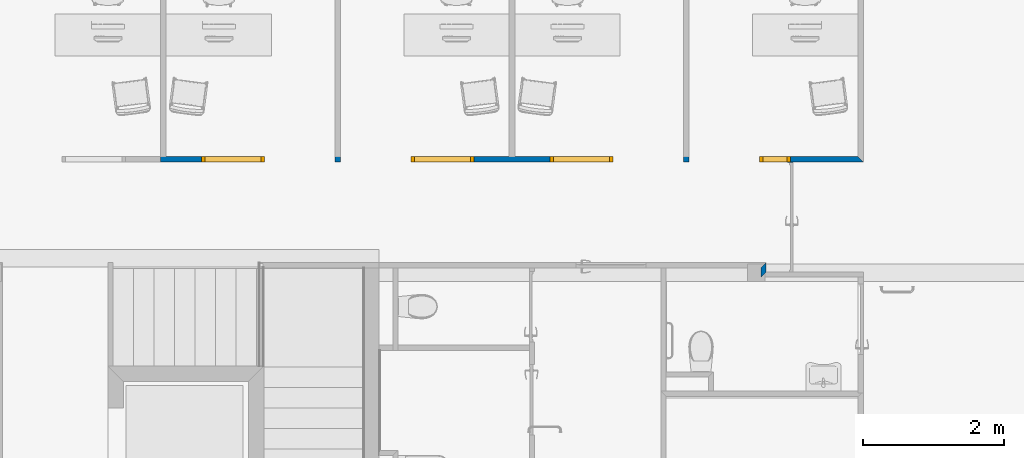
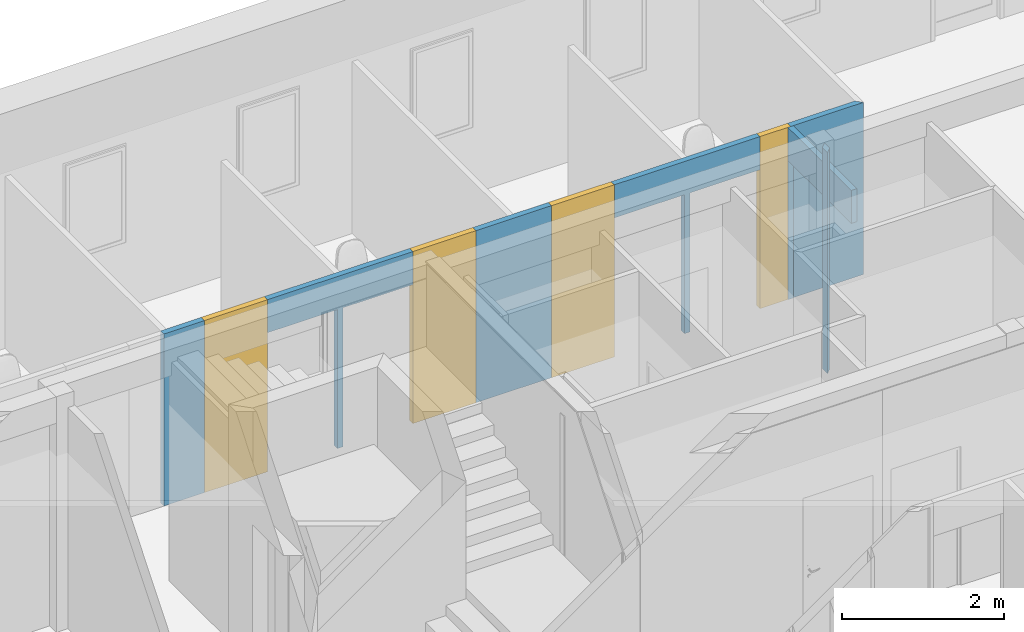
# One storey, part 25 of 91: 4 windows, 3 walls, 9 openings.
"""IFC2X3 building model written with IfcOpenShell, lengths in metres."""

from ifc_helpers import new_model, entity, si_unit, converted_unit, derived_unit, money_unit, direction, frame, origin_with_axes, origin_2d_with_axis, place, context, subcontext, project, spatial, polyline, rectangle, outline, extrude, open_shell, faceted_brep, surface_model, source, transform, mapped, material, layer, layer_set, layer_usage, type_object, element, fill, save


model = new_model("IFC2X3")

# Units and contexts
model_context = context("Model", 3, precision=1e-05, world=origin_with_axes(), true_north=direction((0.0, 1.0)))
body_context = subcontext(model_context, "Body", "Model", "MODEL_VIEW")
ifc_project = project(units=[si_unit("LENGTHUNIT", "METRE"), si_unit("AREAUNIT", "SQUARE_METRE"), si_unit("VOLUMEUNIT", "CUBIC_METRE"), converted_unit("PLANEANGLEUNIT", "DEGREE", entity("IfcPlaneAngleMeasure", 0.0174532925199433), si_unit("PLANEANGLEUNIT", "RADIAN"), dimensions=[0, 0, 0, 0, 0, 0, 0]), money_unit("EUR"), converted_unit("TIMEUNIT", "Year", entity("IfcTimeMeasure", 31557600.0), si_unit("TIMEUNIT", "SECOND"), dimensions=[0, 0, 1, 0, 0, 0, 0]), si_unit("MASSUNIT", "GRAM", prefix="KILO"), si_unit("THERMODYNAMICTEMPERATUREUNIT", "DEGREE_CELSIUS"), si_unit("LUMINOUSINTENSITYUNIT", "LUMEN"), si_unit("ENERGYUNIT", "JOULE", prefix="MEGA"), derived_unit("THERMALCONDUCTANCEUNIT", [(si_unit("POWERUNIT", "WATT"), 1), (si_unit("LENGTHUNIT", "METRE"), -1), (si_unit("THERMODYNAMICTEMPERATUREUNIT", "KELVIN"), -1)]), derived_unit("SPECIFICHEATCAPACITYUNIT", [(si_unit("ENERGYUNIT", "JOULE"), 1), (si_unit("MASSUNIT", "GRAM", prefix="KILO"), -1), (si_unit("THERMODYNAMICTEMPERATUREUNIT", "KELVIN"), -1)]), derived_unit("MASSDENSITYUNIT", [(si_unit("MASSUNIT", "GRAM", prefix="KILO"), 1), (si_unit("VOLUMEUNIT", "CUBIC_METRE"), -1)])], contexts=[model_context])

# Site, building, storey
site_placement = place(None, origin_with_axes())
site = spatial("IfcSite", under=ifc_project, at=site_placement, Name="Site", CompositionType="ELEMENT")
building_placement = place(site_placement, origin_with_axes())
building = spatial("IfcBuilding", under=site, at=building_placement, Name="Bâtiment", CompositionType="ELEMENT")
storey_placement = place(building_placement, origin_with_axes())
storey = spatial("IfcBuildingStorey", under=building, at=storey_placement, Name="RDC", CompositionType="ELEMENT", Elevation=0.0)

# Wall
ifc_material_1 = material(Name="Finition int - Plaque de plâtre")
ifc_layer_1 = layer(ifc_material_1, 0.013, ventilated="UNKNOWN")
ifc_material_2 = material(Name="Isolation - Laine de verre")
ifc_layer_2 = layer(ifc_material_2, 0.048, ventilated="UNKNOWN")
ifc_layer_3 = layer(ifc_material_1, 0.013, ventilated="UNKNOWN")
ifc_layer_set_1 = layer_set([ifc_layer_1, ifc_layer_2, ifc_layer_3], Name="*Cloison 72")
ifc_layer_usage_1 = layer_usage(ifc_layer_set_1, "AXIS2", "NEGATIVE", 0.0)
wall_type_1 = type_object("IfcWallType", Name="*Cloison 72 74", PredefinedType="NOTDEFINED")
wall_1_placement = place(storey_placement, frame((43.55999727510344, -16.61756236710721, 0.0), z_axis=(0.0, 0.0, 1.0), x_axis=(0.0, -1.0, 0.0)))
element("IfcWallStandardCase", 1, at=wall_1_placement, inside=storey, type_object=wall_type_1, material=ifc_layer_usage_1, Name="Cloisons ép. 72mm", context=body_context, shape_type="SweptSolid", body=[
    extrude(outline(polyline([(0.07400000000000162, -0.07399999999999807), (0.2040000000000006, -0.07399999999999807), (0.129999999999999, 0.0), (0.0, 0.0), (0.07400000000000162, -0.07399999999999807)])), origin_with_axes(), (0.0, 0.0, 1.0), 3.34),
])

# Wall, openings, windows
ifc_material_3 = material(Name="*PLAQUE DE PLATRE - CLOISON")
ifc_layer_4 = layer(ifc_material_3, 0.08, ventilated="UNKNOWN")
ifc_layer_set_2 = layer_set([ifc_layer_4], Name="*PLAQUE DE PLATRE - CLOISON 0.08")
ifc_layer_usage_2 = layer_usage(ifc_layer_set_2, "AXIS2", "POSITIVE", 0.0)
wall_type_2 = type_object("IfcWallType", Name="*PLAQUE DE PLATRE - CLOISON 80", PredefinedType="NOTDEFINED")
wall_2_placement = place(storey_placement, frame((34.94300003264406, -15.18656213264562, 0.0), z_axis=(0.0, 0.0, 1.0), x_axis=(1.0, 0.0, 0.0)))
wall_2 = element("IfcWallStandardCase", 2, at=wall_2_placement, inside=storey, type_object=wall_type_2, material=ifc_layer_usage_2, Name="Cloison modulaire", context=body_context, shape_type="SweptSolid", body=[
    extrude(outline(polyline([(0.0, 0.0), (9.99999995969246, 0.0), (9.919999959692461, 0.08000000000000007), (0.0, 0.08000000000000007), (0.0, 0.0)])), origin_with_axes(), (0.0, 0.0, 1.0), 2.6),
])
opening_1_placement = place(wall_2_placement, frame((1.029999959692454, 0.0, 0.0), z_axis=(0.0, 0.0, 1.0), x_axis=(1.0, 0.0, 0.0)))
opening_1 = element("IfcOpeningElement", 3, at=opening_1_placement, cuts=wall_2, Name="CH.1+vitrophanie", context=body_context, shape_type="SweptSolid", body=[
    extrude(rectangle(XDim=0.9000000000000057, YDim=2.6, at=origin_2d_with_axis()), frame((0.0, 0.08000000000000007, 1.3), z_axis=(0.0, -1.0, 0.0), x_axis=(-1.0, 0.0, 0.0)), (0.0, 0.0, 1.0), 0.24),
])
opening_2_placement = place(wall_2_placement, frame((4.009999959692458, 0.0, 0.0), z_axis=(0.0, 0.0, 1.0), x_axis=(1.0, 0.0, 0.0)))
opening_2 = element("IfcOpeningElement", 4, at=opening_2_placement, cuts=wall_2, Name="CH.1+vitrophanie", context=body_context, shape_type="SweptSolid", body=[
    extrude(rectangle(XDim=0.9000000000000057, YDim=2.6, at=origin_2d_with_axis()), frame((0.0, 0.08000000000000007, 1.3), z_axis=(0.0, -1.0, 0.0), x_axis=(-1.0, 0.0, 0.0)), (0.0, 0.0, 1.0), 0.24),
])
opening_3_placement = place(wall_2_placement, frame((5.989999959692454, 0.0, 0.0), z_axis=(0.0, 0.0, 1.0), x_axis=(1.0, 0.0, 0.0)))
opening_3 = element("IfcOpeningElement", 5, at=opening_3_placement, cuts=wall_2, Name="CH.1+vitrophanie", context=body_context, shape_type="SweptSolid", body=[
    extrude(rectangle(XDim=0.9000000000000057, YDim=2.6, at=origin_2d_with_axis()), frame((0.0, 0.08000000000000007, 1.3), z_axis=(0.0, -1.0, 0.0), x_axis=(-1.0, 0.0, 0.0)), (0.0, 0.0, 1.0), 0.24),
])
opening_4_placement = place(wall_2_placement, frame((8.739999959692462, 0.0, 0.0), z_axis=(0.0, 0.0, 1.0), x_axis=(1.0, 0.0, 0.0)))
opening_4 = element("IfcOpeningElement", 6, at=opening_4_placement, cuts=wall_2, Name="CH.2+vitrophanie", context=body_context, shape_type="SweptSolid", body=[
    extrude(rectangle(XDim=0.4400000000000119, YDim=2.6, at=origin_2d_with_axis()), frame((0.0, 0.08000000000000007, 1.3), z_axis=(0.0, -1.0, 0.0), x_axis=(-1.0, 0.0, 0.0)), (0.0, 0.0, 1.0), 0.24),
])
opening_5_placement = place(wall_2_placement, frame((3.059999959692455, 0.0, 0.0), z_axis=(0.0, 0.0, 1.0), x_axis=(1.0, 0.0, 0.0)))
element("IfcOpeningElement", 7, at=opening_5_placement, cuts=wall_2, Name="libre", context=body_context, shape_type="SweptSolid", body=[
    extrude(rectangle(XDim=1.0, YDim=2.1, at=origin_2d_with_axis()), frame((0.0, 0.0, 1.05), z_axis=(0.0, 1.0, 0.0), x_axis=(1.0, 0.0, 0.0)), (0.0, 0.0, -1.0), 0.08),
    extrude(rectangle(XDim=1.0, YDim=2.1, at=origin_2d_with_axis()), frame((0.0, 0.0, 1.05), z_axis=(0.0, -1.0, 0.0), x_axis=(1.0, 0.0, 0.0)), (0.0, 0.0, -1.0), 0.08),
])
opening_6_placement = place(wall_2_placement, frame((1.979999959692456, 0.0, 0.0), z_axis=(0.0, 0.0, 1.0), x_axis=(1.0, 0.0, 0.0)))
element("IfcOpeningElement", 8, at=opening_6_placement, cuts=wall_2, Name="libre", context=body_context, shape_type="SweptSolid", body=[
    extrude(rectangle(XDim=1.0, YDim=2.1, at=origin_2d_with_axis()), frame((0.0, 0.0, 1.05), z_axis=(0.0, 1.0, 0.0), x_axis=(1.0, 0.0, 0.0)), (0.0, 0.0, -1.0), 0.08),
    extrude(rectangle(XDim=1.0, YDim=2.1, at=origin_2d_with_axis()), frame((0.0, 0.0, 1.05), z_axis=(0.0, -1.0, 0.0), x_axis=(1.0, 0.0, 0.0)), (0.0, 0.0, -1.0), 0.08),
])
opening_7_placement = place(wall_2_placement, frame((8.019999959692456, 0.0, 0.0), z_axis=(0.0, 0.0, 1.0), x_axis=(1.0, 0.0, 0.0)))
element("IfcOpeningElement", 9, at=opening_7_placement, cuts=wall_2, Name="libre", context=body_context, shape_type="SweptSolid", body=[
    extrude(rectangle(XDim=1.0, YDim=2.1, at=origin_2d_with_axis()), frame((0.0, 0.0, 1.05), z_axis=(0.0, 1.0, 0.0), x_axis=(1.0, 0.0, 0.0)), (0.0, 0.0, -1.0), 0.08),
    extrude(rectangle(XDim=1.0, YDim=2.1, at=origin_2d_with_axis()), frame((0.0, 0.0, 1.05), z_axis=(0.0, -1.0, 0.0), x_axis=(1.0, 0.0, 0.0)), (0.0, 0.0, -1.0), 0.08),
])
opening_8_placement = place(wall_2_placement, frame((6.939999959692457, 0.0, 0.0), z_axis=(0.0, 0.0, 1.0), x_axis=(1.0, 0.0, 0.0)))
element("IfcOpeningElement", 10, at=opening_8_placement, cuts=wall_2, Name="libre", context=body_context, shape_type="SweptSolid", body=[
    extrude(rectangle(XDim=1.0, YDim=2.1, at=origin_2d_with_axis()), frame((0.0, 0.0, 1.05), z_axis=(0.0, 1.0, 0.0), x_axis=(1.0, 0.0, 0.0)), (0.0, 0.0, -1.0), 0.08),
    extrude(rectangle(XDim=1.0, YDim=2.1, at=origin_2d_with_axis()), frame((0.0, 0.0, 1.05), z_axis=(0.0, -1.0, 0.0), x_axis=(1.0, 0.0, 0.0)), (0.0, 0.0, -1.0), 0.08),
])
window_style = type_object("IfcWindowStyle", Name="Fenêtre 27", ConstructionType="NOTDEFINED", OperationType="SINGLE_PANEL", ParameterTakesPrecedence=False, Sizeable=False)
shared_shape_1 = source(origin_with_axes(), body_context, "Body", "SurfaceModel", [
    faceted_brep([(-0.4, -0.08000000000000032, 2.55), (-0.4, 0.0, 2.55), (-0.45, 0.0, 2.6), (-0.45, -0.08000000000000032, 2.6), (-0.4, -0.08, 0.05), (-0.4, 0.0, 0.05), (-0.45, 0.0, 0.0), (-0.45, -0.08, 0.0)], [[[0, 1, 2, 3]], [[4, 5, 1, 0]], [[1, 5, 6, 2]], [[3, 2, 6, 7]], [[0, 3, 7, 4]], [[7, 6, 5, 4]]]),
    faceted_brep([(0.4, -0.08, 0.05), (0.4, 0.0, 0.05), (0.45, 0.0, 0.0), (0.45, -0.08, 0.0), (0.4, -0.08000000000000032, 2.55), (0.4, 0.0, 2.55), (0.45, 0.0, 2.6), (0.45, -0.08000000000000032, 2.6)], [[[0, 1, 2, 3]], [[4, 5, 1, 0]], [[1, 5, 6, 2]], [[3, 2, 6, 7]], [[0, 3, 7, 4]], [[7, 6, 5, 4]]]),
    faceted_brep([(-0.4, -0.08, 0.05), (-0.4, 0.0, 0.05), (-0.45, 0.0, 0.0), (-0.45, -0.08, 0.0), (0.4, -0.08, 0.05), (0.4, 0.0, 0.05), (0.45, 0.0, 0.0), (0.45, -0.08, 0.0)], [[[0, 1, 2, 3]], [[4, 5, 1, 0]], [[1, 5, 6, 2]], [[3, 2, 6, 7]], [[0, 3, 7, 4]], [[7, 6, 5, 4]]]),
    faceted_brep([(0.4, -0.08000000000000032, 2.55), (0.4, 0.0, 2.55), (0.45, 0.0, 2.6), (0.45, -0.08000000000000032, 2.6), (-0.4, -0.08000000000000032, 2.55), (-0.4, 0.0, 2.55), (-0.45, 0.0, 2.6), (-0.45, -0.08000000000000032, 2.6)], [[[0, 1, 2, 3]], [[4, 5, 1, 0]], [[1, 5, 6, 2]], [[3, 2, 6, 7]], [[0, 3, 7, 4]], [[7, 6, 5, 4]]]),
    surface_model("IfcShellBasedSurfaceModel", [(-0.4, -0.02, 0.05000000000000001), (0.4, -0.02, 0.05000000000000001), (0.4, -0.02000000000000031, 2.55), (-0.4, -0.02000000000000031, 2.55)], [open_shell([[[0, 1, 2, 3]]])]),
    surface_model("IfcShellBasedSurfaceModel", [(-0.4, 0.0, 0.05000000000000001), (-0.4, 0.0, 2.55), (0.4, 0.0, 2.55), (0.4, 0.0, 0.05000000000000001)], [open_shell([[[0, 1, 2, 3]]])]),
])
window_1_placement = place(opening_1_placement, frame((0.4500000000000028, 0.0, 0.0), z_axis=(0.0, 0.0, 1.0), x_axis=(-1.0, 0.0, 0.0)))
window_1 = element("IfcWindow", 11, at=window_1_placement, inside=storey, type_object=window_style, Name="CH.1+vitrophanie", OverallHeight=2.6, OverallWidth=0.9, context=body_context, shape_type="MappedRepresentation", body=[
    mapped(shared_shape_1, transform((0.4500000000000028, 0.0, 0.0))),
])
fill(opening_1, window_1)
window_2_placement = place(opening_2_placement, frame((0.4500000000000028, 0.0, 0.0), z_axis=(0.0, 0.0, 1.0), x_axis=(-1.0, 0.0, 0.0)))
window_2 = element("IfcWindow", 12, at=window_2_placement, inside=storey, type_object=window_style, Name="CH.1+vitrophanie", OverallHeight=2.6, OverallWidth=0.9, context=body_context, shape_type="MappedRepresentation", body=[
    mapped(shared_shape_1, transform((0.4500000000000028, 0.0, 0.0))),
])
fill(opening_2, window_2)
window_3_placement = place(opening_3_placement, frame((0.4500000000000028, 0.0, 0.0), z_axis=(0.0, 0.0, 1.0), x_axis=(-1.0, 0.0, 0.0)))
window_3 = element("IfcWindow", 13, at=window_3_placement, inside=storey, type_object=window_style, Name="CH.1+vitrophanie", OverallHeight=2.6, OverallWidth=0.9, context=body_context, shape_type="MappedRepresentation", body=[
    mapped(shared_shape_1, transform((0.4500000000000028, 0.0, 0.0))),
])
fill(opening_3, window_3)
shared_shape_2 = source(origin_with_axes(), body_context, "Body", "SurfaceModel", [
    faceted_brep([(-0.1700000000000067, -0.08000000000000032, 2.55), (-0.1700000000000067, 0.0, 2.55), (-0.2200000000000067, 0.0, 2.6), (-0.2200000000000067, -0.08000000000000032, 2.6), (-0.1700000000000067, -0.08, 0.05), (-0.1700000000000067, 0.0, 0.05), (-0.2200000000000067, 0.0, 0.0), (-0.2200000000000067, -0.08, 0.0)], [[[0, 1, 2, 3]], [[4, 5, 1, 0]], [[1, 5, 6, 2]], [[3, 2, 6, 7]], [[0, 3, 7, 4]], [[7, 6, 5, 4]]]),
    faceted_brep([(0.1700000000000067, -0.08, 0.05), (0.1700000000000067, 0.0, 0.05), (0.2200000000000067, 0.0, 0.0), (0.2200000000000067, -0.08, 0.0), (0.1700000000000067, -0.08000000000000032, 2.55), (0.1700000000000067, 0.0, 2.55), (0.2200000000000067, 0.0, 2.6), (0.2200000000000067, -0.08000000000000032, 2.6)], [[[0, 1, 2, 3]], [[4, 5, 1, 0]], [[1, 5, 6, 2]], [[3, 2, 6, 7]], [[0, 3, 7, 4]], [[7, 6, 5, 4]]]),
    faceted_brep([(-0.1700000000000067, -0.08, 0.05), (-0.1700000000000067, 0.0, 0.05), (-0.2200000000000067, 0.0, 0.0), (-0.2200000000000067, -0.08, 0.0), (0.1700000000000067, -0.08, 0.05), (0.1700000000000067, 0.0, 0.05), (0.2200000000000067, 0.0, 0.0), (0.2200000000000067, -0.08, 0.0)], [[[0, 1, 2, 3]], [[4, 5, 1, 0]], [[1, 5, 6, 2]], [[3, 2, 6, 7]], [[0, 3, 7, 4]], [[7, 6, 5, 4]]]),
    faceted_brep([(0.1700000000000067, -0.08000000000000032, 2.55), (0.1700000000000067, 0.0, 2.55), (0.2200000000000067, 0.0, 2.6), (0.2200000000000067, -0.08000000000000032, 2.6), (-0.1700000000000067, -0.08000000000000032, 2.55), (-0.1700000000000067, 0.0, 2.55), (-0.2200000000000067, 0.0, 2.6), (-0.2200000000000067, -0.08000000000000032, 2.6)], [[[0, 1, 2, 3]], [[4, 5, 1, 0]], [[1, 5, 6, 2]], [[3, 2, 6, 7]], [[0, 3, 7, 4]], [[7, 6, 5, 4]]]),
    surface_model("IfcShellBasedSurfaceModel", [(-0.1700000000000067, -0.02, 0.05000000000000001), (0.1700000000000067, -0.02, 0.05000000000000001), (0.1700000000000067, -0.02000000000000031, 2.55), (-0.1700000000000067, -0.02000000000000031, 2.55)], [open_shell([[[0, 1, 2, 3]]])]),
    surface_model("IfcShellBasedSurfaceModel", [(-0.1700000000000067, 0.0, 0.05000000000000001), (-0.1700000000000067, 0.0, 2.55), (0.1700000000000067, 0.0, 2.55), (0.1700000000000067, 0.0, 0.05000000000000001)], [open_shell([[[0, 1, 2, 3]]])]),
])
window_4_placement = place(opening_4_placement, frame((0.220000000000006, 0.0, 0.0), z_axis=(0.0, 0.0, 1.0), x_axis=(-1.0, 0.0, 0.0)))
window_4 = element("IfcWindow", 14, at=window_4_placement, inside=storey, type_object=window_style, Name="CH.2+vitrophanie", OverallHeight=2.6, OverallWidth=0.44, context=body_context, shape_type="MappedRepresentation", body=[
    mapped(shared_shape_2, transform((0.220000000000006, 0.0, 0.0))),
])
fill(opening_4, window_4)

# Wall, opening
ifc_layer_usage_3 = layer_usage(ifc_layer_set_2, "AXIS2", "POSITIVE", 0.0)
wall_3_placement = place(storey_placement, frame((43.94299999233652, -16.7575645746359, 0.0), z_axis=(0.0, 0.0, 1.0), x_axis=(0.0, 1.0, 0.0)))
wall_3 = element("IfcWallStandardCase", 15, at=wall_3_placement, inside=storey, type_object=wall_type_2, material=ifc_layer_usage_3, Name="Cloison modulaire", context=body_context, shape_type="SweptSolid", body=[
    extrude(outline(polyline([(0.0, 0.0), (1.571002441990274, 0.0), (1.571002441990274, 0.0799999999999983), (0.0, 0.0799999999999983), (0.0, 0.0)])), origin_with_axes(), (0.0, 0.0, 1.0), 2.600000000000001),
])
opening_9_placement = place(wall_3_placement, frame((0.7820012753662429, 0.0, 0.0), z_axis=(0.0, 0.0, 1.0), x_axis=(1.0, 0.0, 0.0)))
element("IfcOpeningElement", 16, at=opening_9_placement, cuts=wall_3, Name="Pi.03", context=body_context, shape_type="SweptSolid", body=[
    extrude(rectangle(XDim=1.564002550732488, YDim=2.1, at=origin_2d_with_axis()), frame((0.0, 0.0799999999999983, 1.05), z_axis=(0.0, 1.0, 0.0), x_axis=(1.0, 0.0, 0.0)), (0.0, 0.0, -1.0), 0.24),
])

save(model, "model.ifc")
